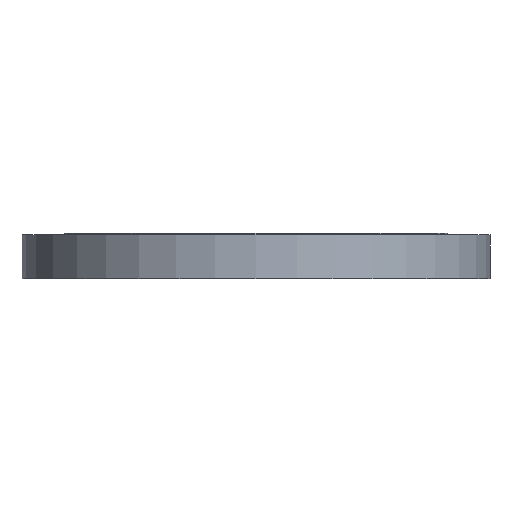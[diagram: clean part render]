
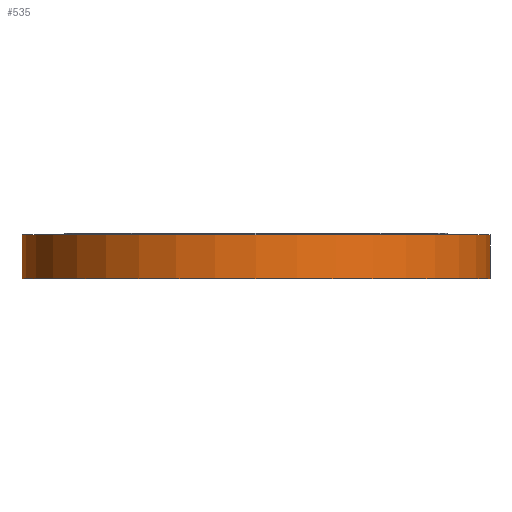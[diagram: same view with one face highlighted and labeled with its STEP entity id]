
A CAD part, front view. The second image highlights one B-rep face of the part: STEP entity #535.
In plain terms, the highlighted cylindrical face has radius 342.5 mm (diameter 685 mm), a partial arc.
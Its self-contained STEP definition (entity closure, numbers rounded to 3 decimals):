
#30 = CARTESIAN_POINT ( 'NONE',  ( -342.5, 0., -66. ) ) ;
#53 = CARTESIAN_POINT ( 'NONE',  ( 342.5, 0., -2. ) ) ;
#248 = CARTESIAN_POINT ( 'NONE',  ( 342.5, 0., -66. ) ) ;
#306 = EDGE_CURVE ( 'NONE', #1379, #1579, #393, .T. ) ;
#393 = CIRCLE ( 'NONE', #397, 342.5 ) ;
#397 = AXIS2_PLACEMENT_3D ( 'NONE', #1175, #1173, #1172 ) ;
#415 = EDGE_CURVE ( 'NONE', #1579, #1001, #1128, .T. ) ;
#518 = CARTESIAN_POINT ( 'NONE',  ( -342.5, 0., -2. ) ) ;
#535 = ADVANCED_FACE ( 'NONE', ( #1024 ), #1023, .T. ) ;
#551 = VECTOR ( 'NONE', #1126, 1000. ) ;
#638 = EDGE_CURVE ( 'NONE', #1556, #1001, #1218, .T. ) ;
#758 = EDGE_CURVE ( 'NONE', #1379, #1556, #784, .T. ) ;
#782 = DIRECTION ( 'NONE',  ( 0., 0., 1. ) ) ;
#783 = CARTESIAN_POINT ( 'NONE',  ( 342.5, 0., -150. ) ) ;
#784 = LINE ( 'NONE', #783, #1423 ) ;
#872 = AXIS2_PLACEMENT_3D ( 'NONE', #1021, #1019, #1018 ) ;
#908 = EDGE_LOOP ( 'NONE', ( #1659, #1658, #1656, #1655 ) ) ;
#918 = DIRECTION ( 'NONE',  ( -1., 0., 0. ) ) ;
#923 = DIRECTION ( 'NONE',  ( 0., 0., -1. ) ) ;
#924 = CARTESIAN_POINT ( 'NONE',  ( 0., 0., -2. ) ) ;
#1001 = VERTEX_POINT ( 'NONE', #518 ) ;
#1018 = DIRECTION ( 'NONE',  ( 1., 0., 0. ) ) ;
#1019 = DIRECTION ( 'NONE',  ( 0., 0., 1. ) ) ;
#1021 = CARTESIAN_POINT ( 'NONE',  ( 0., 0., -150. ) ) ;
#1023 = CYLINDRICAL_SURFACE ( 'NONE', #872, 342.5 ) ;
#1024 = FACE_OUTER_BOUND ( 'NONE', #908, .T. ) ;
#1126 = DIRECTION ( 'NONE',  ( 0., 0., 1. ) ) ;
#1127 = CARTESIAN_POINT ( 'NONE',  ( -342.5, 0., -150. ) ) ;
#1128 = LINE ( 'NONE', #1127, #551 ) ;
#1172 = DIRECTION ( 'NONE',  ( -1., 0., 0. ) ) ;
#1173 = DIRECTION ( 'NONE',  ( 0., 0., -1. ) ) ;
#1175 = CARTESIAN_POINT ( 'NONE',  ( 0., 0., -66. ) ) ;
#1218 = CIRCLE ( 'NONE', #1222, 342.5 ) ;
#1222 = AXIS2_PLACEMENT_3D ( 'NONE', #924, #923, #918 ) ;
#1379 = VERTEX_POINT ( 'NONE', #248 ) ;
#1423 = VECTOR ( 'NONE', #782, 1000. ) ;
#1556 = VERTEX_POINT ( 'NONE', #53 ) ;
#1579 = VERTEX_POINT ( 'NONE', #30 ) ;
#1655 = ORIENTED_EDGE ( 'NONE', *, *, #638, .T. ) ;
#1656 = ORIENTED_EDGE ( 'NONE', *, *, #758, .T. ) ;
#1658 = ORIENTED_EDGE ( 'NONE', *, *, #306, .F. ) ;
#1659 = ORIENTED_EDGE ( 'NONE', *, *, #415, .F. ) ;
